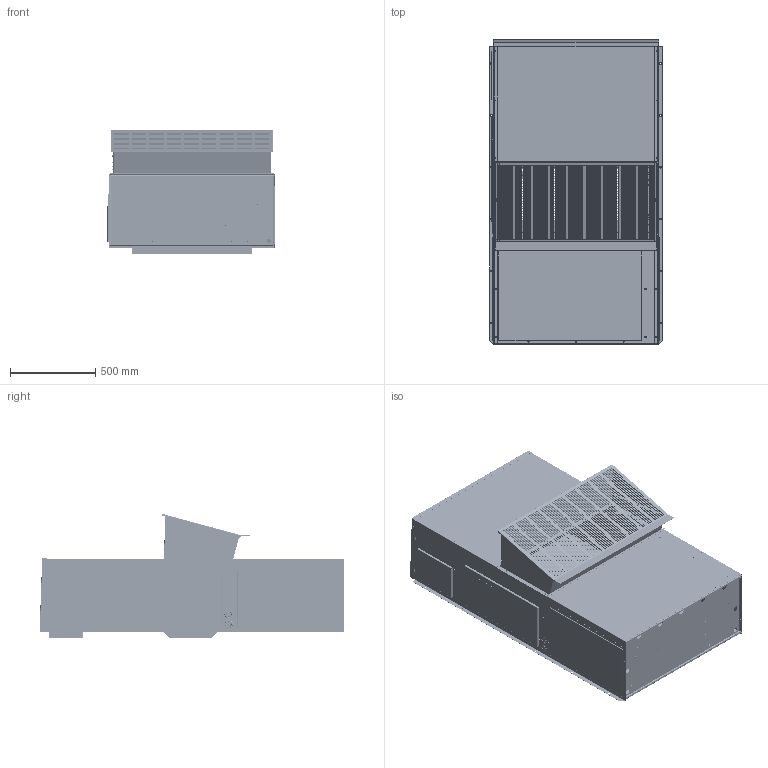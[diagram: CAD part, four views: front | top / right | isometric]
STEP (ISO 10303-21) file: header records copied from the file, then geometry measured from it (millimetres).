
FILE_DESCRIPTION (( 'STEP AP203' ), '1' );
FILE_NAME ('STEP_500_11.STEP', '2016-06-20T15:48:40', ( '' ), ( '' ), 'SwSTEP 2.0', 'SolidWorks 2016', '' );
FILE_SCHEMA (( 'CONFIG_CONTROL_DESIGN' ));
Products named in the file (1): STEP_500_11
Bounding box: 1015.56 x 1792.28 x 729.98 mm (x, y, z)
Volume: 8165068.1 mm3; surface area: 16830042.7 mm2
Topology: 76 solids, 76 shells, 6366 faces, 17494 edges, 11356 vertices
Faces by surface type: plane 3392, cylinder 2092, bspline 806, cone 76
Entity records: 231151 total; most frequent: CARTESIAN_POINT 67031, ORIENTED_EDGE 34868, DIRECTION 32449, EDGE_CURVE 17434, VERTEX_POINT 11356, LINE 11273, VECTOR 11273, AXIS2_PLACEMENT_3D 10588
